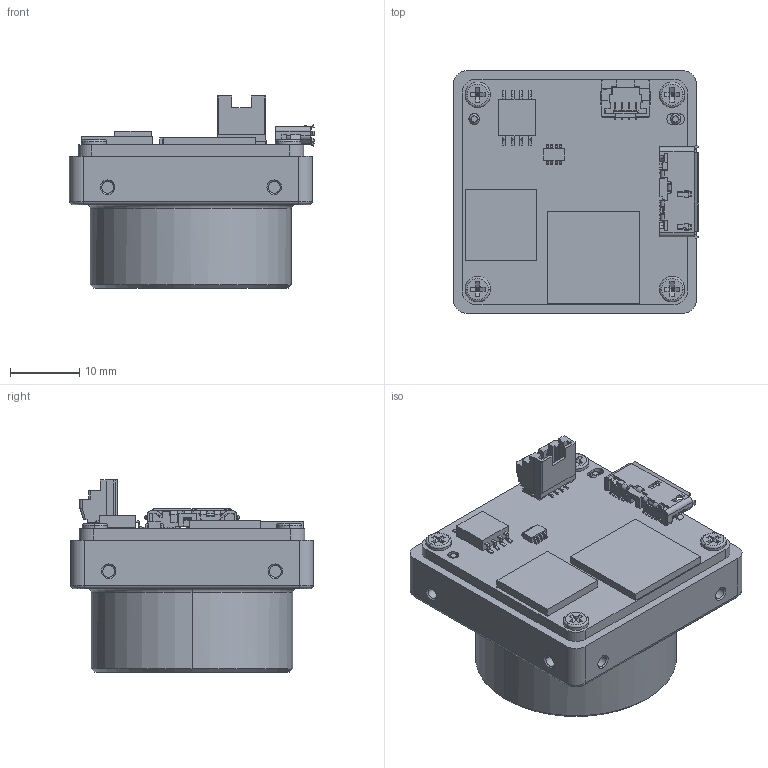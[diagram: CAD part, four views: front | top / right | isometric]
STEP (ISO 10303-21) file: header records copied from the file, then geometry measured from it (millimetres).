
FILE_DESCRIPTION((''),'2;1');
FILE_NAME('PRT0002','2019-07-12T17:38:15',('wangyijun6'),(''),'CREO PARAMETRIC BY PTC INC, 2017260','CREO PARAMETRIC BY PTC INC, 2017260','');
FILE_SCHEMA(('CONFIG_CONTROL_DESIGN'));
Length unit declared in the file: millimetre
Products named in the file (1): PRT0002
Bounding box: 35.32 x 35 x 27.66 mm (x, y, z)
Volume: 12450.3 mm3; surface area: 7324.3 mm2
Topology: 2 solids, 16 shells, 1495 faces, 4272 edges, 2800 vertices
Faces by surface type: plane 918, cylinder 407, cone 82, torus 52, bspline 32, sphere 4
Entity records: 51124 total; most frequent: CARTESIAN_POINT 11503, ORIENTED_EDGE 8528, DIRECTION 8083, EDGE_CURVE 4264, VECTOR 2837, LINE 2837, VERTEX_POINT 2800, AXIS2_PLACEMENT_3D 2623
